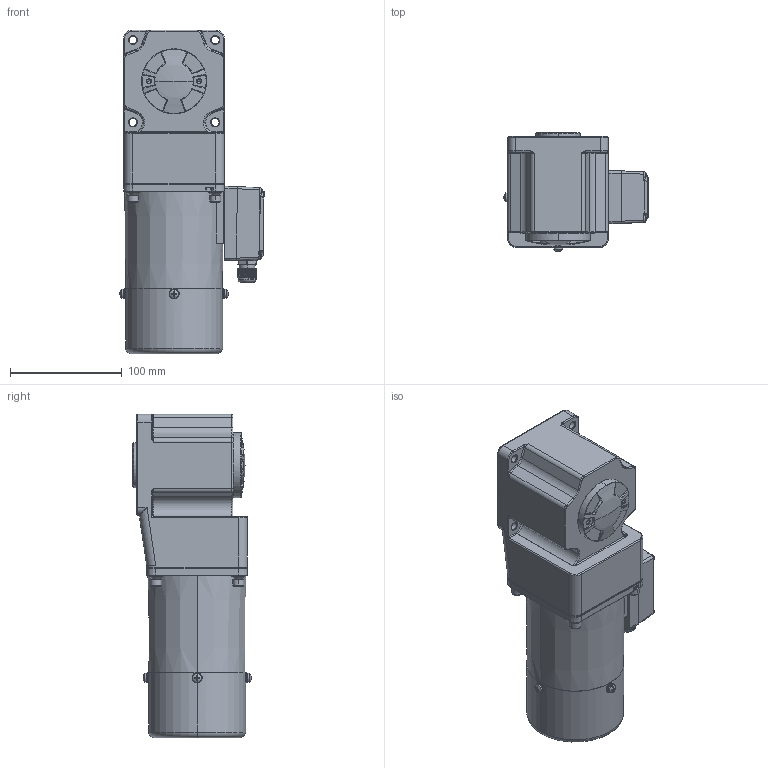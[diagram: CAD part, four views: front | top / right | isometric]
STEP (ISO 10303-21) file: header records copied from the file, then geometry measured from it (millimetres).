
FILE_DESCRIPTION (( 'STEP AP203' ), '1' );
FILE_NAME ('5RK40GU-CMT(5GU3RC-180RC).STEP', '2020-04-28T05:33:19', ( 'Windows 蚚誧' ), ( '' ), 'SwSTEP 2.0', 'SolidWorks 2019', '' );
FILE_SCHEMA (( 'CONFIG_CONTROL_DESIGN' ));
Length unit declared in the file: millimetre
Products named in the file (3): 90RC; 5RK40GU-CMT(5GU3RC-180RC); 5RK40A-CMT
Assembly tree (2 placements, depth 2):
  5RK40GU-CMT(5GU3RC-180RC)
    5RK40A-CMT
    90RC
Bounding box: 128.79 x 105.85 x 289 mm (x, y, z)
Volume: 1007687.9 mm3; surface area: 298901.2 mm2
Topology: 33 solids, 36 shells, 3300 faces, 8231 edges, 4890 vertices
Faces by surface type: cylinder 984, cone 763, plane 758, torus 461, bspline 182, sphere 152
Entity records: 112108 total; most frequent: CARTESIAN_POINT 34487, DIRECTION 17050, ORIENTED_EDGE 16074, EDGE_CURVE 8037, AXIS2_PLACEMENT_3D 7134, VERTEX_POINT 4880, CIRCLE 4011, EDGE_LOOP 3435
